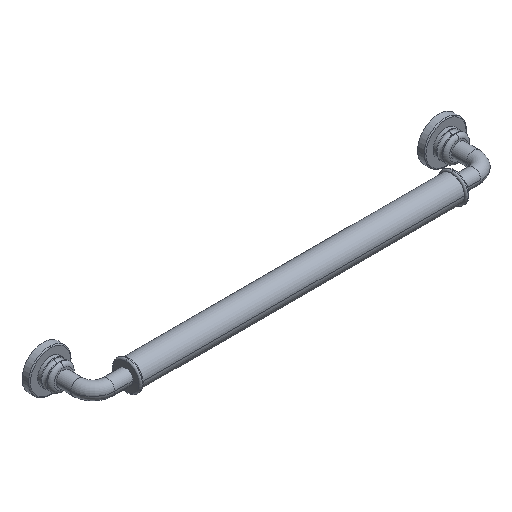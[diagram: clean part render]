
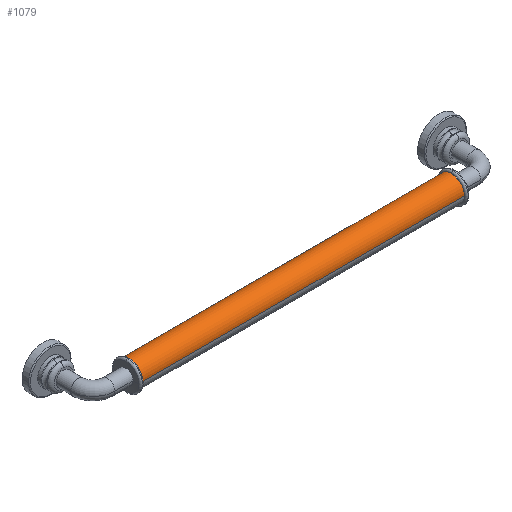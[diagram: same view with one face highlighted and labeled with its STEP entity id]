
A CAD part, isometric view. The second image highlights one B-rep face of the part: STEP entity #1079.
In plain terms, the highlighted cylindrical face has radius 7 mm (diameter 14 mm), a partial arc.
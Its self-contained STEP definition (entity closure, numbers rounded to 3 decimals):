
#655 = EDGE_CURVE( '', #1093, #1199, #1620, .T. );
#675 = EDGE_CURVE( '', #1209, #1395, #1643, .T. );
#1051 = EDGE_CURVE( '', #1209, #1199, #2059, .T. );
#1079 = ADVANCED_FACE( '', ( #2089 ), #2090, .T. );
#1093 = VERTEX_POINT( '', #2105 );
#1171 = EDGE_CURVE( '', #1395, #1093, #2193, .T. );
#1199 = VERTEX_POINT( '', #2223 );
#1209 = VERTEX_POINT( '', #2233 );
#1395 = VERTEX_POINT( '', #2439 );
#1620 = LINE( '', #2706, #2707 );
#1643 = LINE( '', #2742, #2743 );
#2059 = CIRCLE( '', #3266, 7. );
#2089 = FACE_OUTER_BOUND( '', #3300, .T. );
#2090 = CYLINDRICAL_SURFACE( '', #3301, 7. );
#2105 = CARTESIAN_POINT( '', ( 195., -20., 0. ) );
#2193 = CIRCLE( '', #3465, 7. );
#2223 = CARTESIAN_POINT( '', ( 20., -20., 0. ) );
#2233 = CARTESIAN_POINT( '', ( 20., -34., 0. ) );
#2439 = CARTESIAN_POINT( '', ( 195., -34., 0. ) );
#2706 = CARTESIAN_POINT( '', ( 107.5, -20., 0. ) );
#2707 = VECTOR( '', #4101, 1. );
#2742 = CARTESIAN_POINT( '', ( 107.5, -34., 0. ) );
#2743 = VECTOR( '', #4140, 1. );
#3266 = AXIS2_PLACEMENT_3D( '', #4705, #4706, #4707 );
#3300 = EDGE_LOOP( '', ( #4740, #4741, #4742, #4743 ) );
#3301 = AXIS2_PLACEMENT_3D( '', #4744, #4745, #4746 );
#3465 = AXIS2_PLACEMENT_3D( '', #4902, #4903, #4904 );
#4101 = DIRECTION( '', ( -1., 0., 0. ) );
#4140 = DIRECTION( '', ( 1., 0., 0. ) );
#4705 = CARTESIAN_POINT( '', ( 20., -27., 0. ) );
#4706 = DIRECTION( '', ( -1., 0., 0. ) );
#4707 = DIRECTION( '', ( 0., 1., 0. ) );
#4740 = ORIENTED_EDGE( '', *, *, #655, .T. );
#4741 = ORIENTED_EDGE( '', *, *, #1051, .F. );
#4742 = ORIENTED_EDGE( '', *, *, #675, .T. );
#4743 = ORIENTED_EDGE( '', *, *, #1171, .T. );
#4744 = CARTESIAN_POINT( '', ( 107.5, -27., 0. ) );
#4745 = DIRECTION( '', ( 1., 0., 0. ) );
#4746 = DIRECTION( '', ( 0., 1., 0. ) );
#4902 = CARTESIAN_POINT( '', ( 195., -27., 0. ) );
#4903 = DIRECTION( '', ( -1., 0., 0. ) );
#4904 = DIRECTION( '', ( 0., 1., 0. ) );
